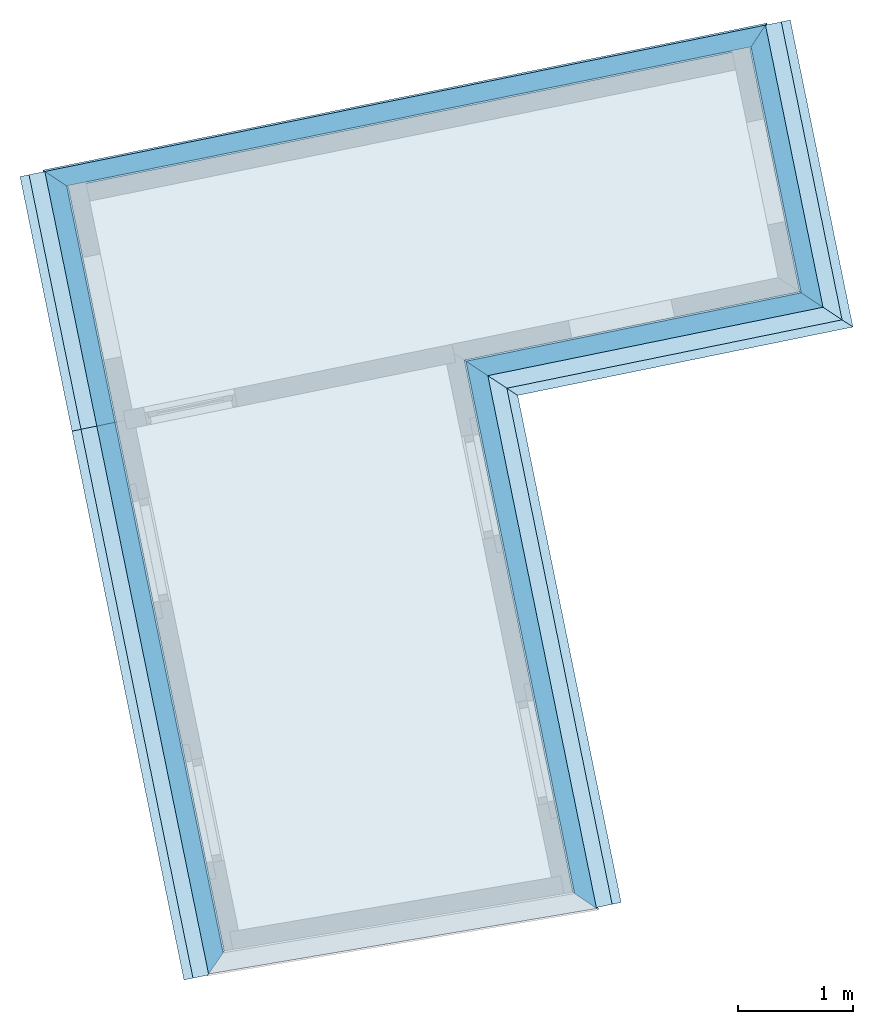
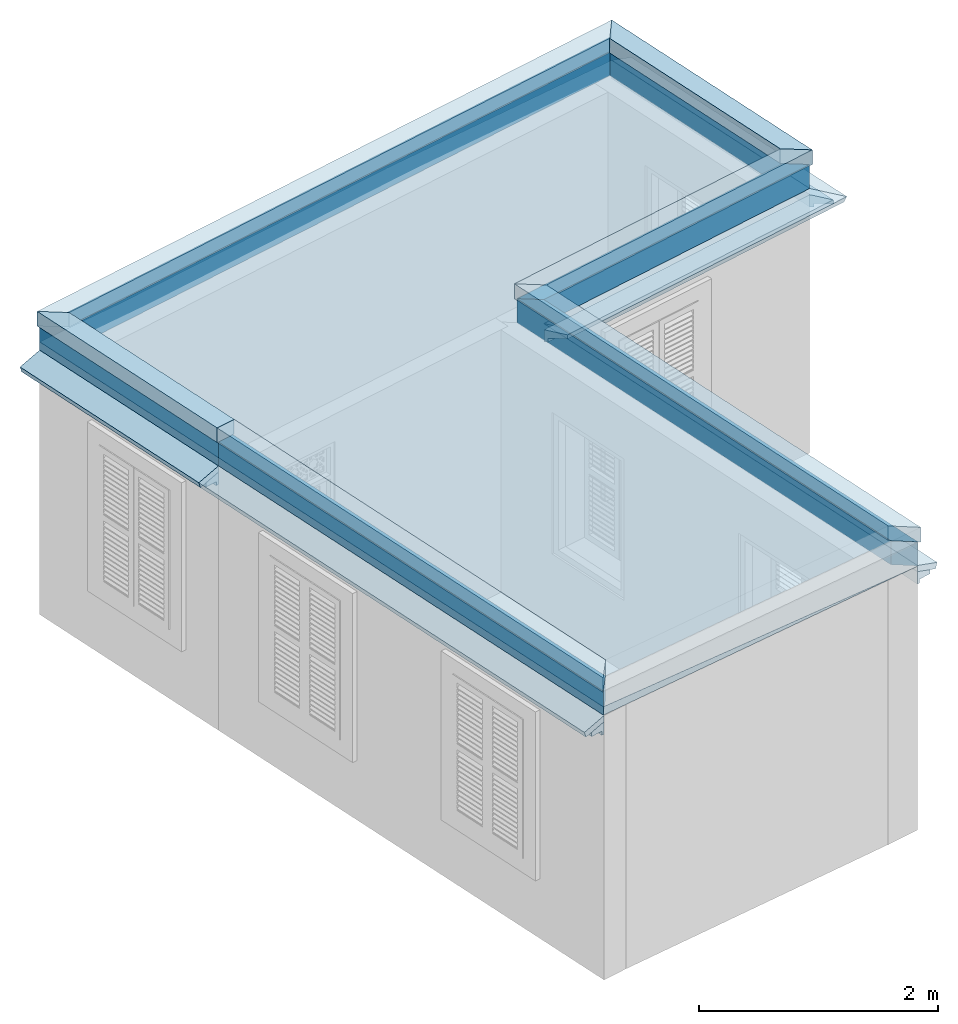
# One storey, part 5 of 5: 23 roofs.
"""IFC4 building model written with IfcOpenShell, lengths in metres."""

from ifc_helpers import new_model, si_unit, frame, origin, origin_with_axes, place, context, subcontext, project, spatial, polyline, outline, extrude, boolean, clip, halfspace, faceted_brep, material_profile, profile_set, profile_usage, type_object, element, save


model = new_model("IFC4")

# Units and contexts
model_context = context("Model", 3, world=origin_with_axes())
body_context = subcontext(model_context, "Body", "Model", "MODEL_VIEW")
ifc_project = project(units=[si_unit("PLANEANGLEUNIT", "RADIAN"), si_unit("MASSUNIT", "GRAM", prefix="KILO"), si_unit("FORCEUNIT", "NEWTON", prefix="KILO"), si_unit("LENGTHUNIT", "METRE"), si_unit("AREAUNIT", "SQUARE_METRE"), si_unit("VOLUMEUNIT", "CUBIC_METRE")], contexts=[model_context, model_context])

# Site, building, storey
site_placement = place(None, origin_with_axes())
site = spatial("IfcSite", under=ifc_project, at=site_placement, Name="Site plot-7", CompositionType="ELEMENT")
building_placement = place(None, origin_with_axes())
building = spatial("IfcBuilding", under=site, at=building_placement, Name="Building plot-7", CompositionType="ELEMENT")
storey_placement = place(None, frame((0.0, 0.0, 5.7), z_axis=(0.0, 0.0, 1.0), x_axis=(1.0, 0.0, 0.0)))
storey = spatial("IfcBuildingStorey", under=building, at=storey_placement, Name="plot-7 2", CompositionType="ELEMENT", Elevation=5.7)

# Roofs
ifc_material_profile_1 = material_profile(None, outline(polyline([(0.25, 0.0), (0.25, 0.245), (0.09, 0.245), (0.09, 0.0), (0.25, 0.0)])))
ifc_profile_set_1 = profile_set([ifc_material_profile_1])
ifc_profile_usage_1 = profile_usage(ifc_profile_set_1)
roof_type_1 = type_object("IfcRoofType", Name="roofline_0", PredefinedType="FREEFORM", material=ifc_profile_set_1)
roof_1_placement = place(storey_placement, frame((-5.20461338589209, 10.3847425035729, 2.7), z_axis=(-0.979807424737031, -0.199943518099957, 0.0), x_axis=(0.199943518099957, -0.979807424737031, 0.0)))
element("IfcRoof", 1, at=roof_1_placement, inside=storey, type_object=roof_type_1, material=ifc_profile_usage_1, Name="roofline_0", context=body_context, shape_type="Clipping", body=[
    clip(clip(extrude(outline(polyline([(0.25, 0.0), (0.25, 0.245), (0.09, 0.245), (0.09, 0.0), (0.25, 0.0)])), origin_with_axes(), (0.0, 0.0, 1.0), 4.97066143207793), halfspace(frame((0.0, 0.0, 3.97066143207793), z_axis=(-0.707106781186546, 0.0, -0.707106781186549), x_axis=(0.0, 1.0, 0.0)), True)), halfspace(frame((0.0, 0.0, 1.0), z_axis=(-0.707106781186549, 0.0, -0.707106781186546), x_axis=(0.0, 1.0, 0.0)), False)),
])
ifc_profile_usage_2 = profile_usage(ifc_profile_set_1)
roof_2_placement = place(storey_placement, frame((-6.78437805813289, 13.1248421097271, 2.7), z_axis=(0.199943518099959, -0.97980742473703, 0.0), x_axis=(0.97980742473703, 0.199943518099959, 0.0)))
element("IfcRoof", 2, at=roof_2_placement, inside=storey, type_object=roof_type_1, material=ifc_profile_usage_2, Name="roofline_0", context=body_context, shape_type="Clipping", body=[
    clip(clip(extrude(outline(polyline([(0.25, 0.0), (0.25, 0.245), (0.09, 0.245), (0.09, 0.0), (0.25, 0.0)])), origin_with_axes(), (0.0, 0.0, 1.0), 4.00063364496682), halfspace(frame((0.0, 0.0, 3.00063364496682), z_axis=(0.707106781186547, 0.0, -0.707106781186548), x_axis=(0.0, 1.0, 0.0)), True)), halfspace(frame((0.0, 0.0, 1.0), z_axis=(-0.706781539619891, 0.0, -0.707431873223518), x_axis=(0.0, 1.0, 0.0)), False)),
])
ifc_profile_usage_3 = profile_usage(ifc_profile_set_1)
roof_3_placement = place(storey_placement, frame((-13.3315997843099, 10.7746431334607, 2.7), z_axis=(0.979990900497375, 0.199042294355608, 0.0), x_axis=(-0.199042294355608, 0.979990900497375, 0.0)))
element("IfcRoof", 3, at=roof_3_placement, inside=storey, type_object=roof_type_1, material=ifc_profile_usage_3, Name="roofline_0", context=body_context, shape_type="Clipping", body=[
    clip(clip(extrude(outline(polyline([(0.25, 0.0), (0.25, 0.245), (0.09, 0.245), (0.09, 0.0), (0.25, 0.0)])), origin_with_axes(), (0.0, 0.0, 1.0), 7.88492642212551), halfspace(frame((0.0, 0.0, 6.88492642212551), z_axis=(0.70678153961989, 0.0, -0.707431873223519), x_axis=(0.0, 1.0, 0.0)), True)), halfspace(frame((0.0, 0.0, 1.0), z_axis=(-0.707431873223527, 0.0, -0.706781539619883), x_axis=(0.0, 1.0, 0.0)), False)),
])
ifc_profile_usage_4 = profile_usage(ifc_profile_set_1)
roof_4_placement = place(storey_placement, frame((-11.7505694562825, 8.028339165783, 2.7), z_axis=(-0.199943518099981, 0.979807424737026, 0.0), x_axis=(-0.979807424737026, -0.199943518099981, 0.0)))
element("IfcRoof", 4, at=roof_4_placement, inside=storey, type_object=roof_type_1, material=ifc_profile_usage_4, Name="roofline_0", context=body_context, shape_type="Clipping", body=[
    clip(clip(extrude(outline(polyline([(0.25, 0.0), (0.25, 0.245), (0.09, 0.245), (0.09, 0.0), (0.25, 0.0)])), origin_with_axes(), (0.0, 0.0, 1.0), 4.00604607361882), halfspace(frame((0.0, 0.0, 3.00604607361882), z_axis=(0.707431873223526, 0.0, -0.706781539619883), x_axis=(0.0, 1.0, 0.0)), True)), halfspace(frame((0.0, 0.0, 1.0), z_axis=(8.26946079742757e-16, 0.0, -1.0), x_axis=(0.0, 1.0, 0.0)), False)),
])
ifc_profile_usage_5 = profile_usage(ifc_profile_set_1)
roof_5_placement = place(storey_placement, frame((-10.8280796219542, 3.50775056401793, 2.7), z_axis=(-0.199943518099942, 0.979807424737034, 0.0), x_axis=(-0.979807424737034, -0.199943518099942, 0.0)))
element("IfcRoof", 5, at=roof_5_placement, inside=storey, type_object=roof_type_1, material=ifc_profile_usage_5, Name="roofline_0", context=body_context, shape_type="Clipping", body=[
    clip(clip(extrude(outline(polyline([(0.25, 0.0), (0.25, 0.245), (0.09, 0.245), (0.09, 0.0), (0.25, 0.0)])), origin_with_axes(), (0.0, 0.0, 1.0), 6.61375213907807), halfspace(frame((0.0, 0.0, 5.61375213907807), z_axis=(-3.86969935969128e-14, 0.0, -1.0), x_axis=(0.0, 1.0, 0.0)), True)), halfspace(frame((0.0, 0.0, 1.0), z_axis=(-0.694901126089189, 0.0, -0.719105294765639), x_axis=(0.0, 1.0, 0.0)), False)),
])
ifc_profile_usage_6 = profile_usage(ifc_profile_set_1)
roof_6_placement = place(storey_placement, frame((-9.29504045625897, 10.5706419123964, 2.7), z_axis=(0.199943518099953, -0.979807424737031, 0.0), x_axis=(0.979807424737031, 0.199943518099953, 0.0)))
element("IfcRoof", 6, at=roof_6_placement, inside=storey, type_object=roof_type_1, material=ifc_profile_usage_6, Name="roofline_0", context=body_context, shape_type="Clipping", body=[
    clip(clip(extrude(outline(polyline([(0.25, 0.0), (0.25, 0.245), (0.09, 0.245), (0.09, 0.0), (0.25, 0.0)])), origin_with_axes(), (0.0, 0.0, 1.0), 6.71355080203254), halfspace(frame((0.0, 0.0, 5.71355080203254), z_axis=(0.719105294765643, 0.0, -0.694901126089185), x_axis=(0.0, 1.0, 0.0)), True)), halfspace(frame((0.0, 0.0, 1.0), z_axis=(0.707106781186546, 0.0, -0.707106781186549), x_axis=(0.0, 1.0, 0.0)), False)),
])
ifc_material_profile_2 = material_profile(None, outline(polyline([(0.265, 0.245), (0.265, 0.395), (0.075, 0.395), (0.075, 0.245), (0.265, 0.245)])))
ifc_profile_set_2 = profile_set([ifc_material_profile_2])
ifc_profile_usage_7 = profile_usage(ifc_profile_set_2)
roof_type_2 = type_object("IfcRoofType", Name="roofline_1", PredefinedType="FREEFORM", material=ifc_profile_set_2)
roof_7_placement = place(storey_placement, frame((-5.20461338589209, 10.3847425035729, 2.7), z_axis=(-0.979807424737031, -0.199943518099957, 0.0), x_axis=(0.199943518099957, -0.979807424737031, 0.0)))
element("IfcRoof", 7, at=roof_7_placement, inside=storey, type_object=roof_type_2, material=ifc_profile_usage_7, Name="roofline_1", context=body_context, shape_type="Clipping", body=[
    clip(clip(extrude(outline(polyline([(0.265, 0.245), (0.265, 0.395), (0.075, 0.395), (0.075, 0.245), (0.265, 0.245)])), origin_with_axes(), (0.0, 0.0, 1.0), 4.97066143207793), halfspace(frame((0.0, 0.0, 3.97066143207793), z_axis=(-0.707106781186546, 0.0, -0.707106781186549), x_axis=(0.0, 1.0, 0.0)), True)), halfspace(frame((0.0, 0.0, 1.0), z_axis=(-0.707106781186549, 0.0, -0.707106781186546), x_axis=(0.0, 1.0, 0.0)), False)),
])
ifc_profile_usage_8 = profile_usage(ifc_profile_set_2)
roof_8_placement = place(storey_placement, frame((-6.78437805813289, 13.1248421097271, 2.7), z_axis=(0.199943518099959, -0.97980742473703, 0.0), x_axis=(0.97980742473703, 0.199943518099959, 0.0)))
element("IfcRoof", 8, at=roof_8_placement, inside=storey, type_object=roof_type_2, material=ifc_profile_usage_8, Name="roofline_1", context=body_context, shape_type="Clipping", body=[
    clip(clip(extrude(outline(polyline([(0.265, 0.245), (0.265, 0.395), (0.075, 0.395), (0.075, 0.245), (0.265, 0.245)])), origin_with_axes(), (0.0, 0.0, 1.0), 4.00063364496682), halfspace(frame((0.0, 0.0, 3.00063364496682), z_axis=(0.707106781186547, 0.0, -0.707106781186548), x_axis=(0.0, 1.0, 0.0)), True)), halfspace(frame((0.0, 0.0, 1.0), z_axis=(-0.706781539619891, 0.0, -0.707431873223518), x_axis=(0.0, 1.0, 0.0)), False)),
])
ifc_profile_usage_9 = profile_usage(ifc_profile_set_2)
roof_9_placement = place(storey_placement, frame((-13.3315997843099, 10.7746431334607, 2.7), z_axis=(0.979990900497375, 0.199042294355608, 0.0), x_axis=(-0.199042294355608, 0.979990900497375, 0.0)))
element("IfcRoof", 9, at=roof_9_placement, inside=storey, type_object=roof_type_2, material=ifc_profile_usage_9, Name="roofline_1", context=body_context, shape_type="Clipping", body=[
    clip(clip(extrude(outline(polyline([(0.265, 0.245), (0.265, 0.395), (0.075, 0.395), (0.075, 0.245), (0.265, 0.245)])), origin_with_axes(), (0.0, 0.0, 1.0), 7.88492642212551), halfspace(frame((0.0, 0.0, 6.88492642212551), z_axis=(0.70678153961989, 0.0, -0.707431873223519), x_axis=(0.0, 1.0, 0.0)), True)), halfspace(frame((0.0, 0.0, 1.0), z_axis=(-0.707431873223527, 0.0, -0.706781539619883), x_axis=(0.0, 1.0, 0.0)), False)),
])
ifc_profile_usage_10 = profile_usage(ifc_profile_set_2)
roof_10_placement = place(storey_placement, frame((-11.7505694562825, 8.028339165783, 2.7), z_axis=(-0.199943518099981, 0.979807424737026, 0.0), x_axis=(-0.979807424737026, -0.199943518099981, 0.0)))
element("IfcRoof", 10, at=roof_10_placement, inside=storey, type_object=roof_type_2, material=ifc_profile_usage_10, Name="roofline_1", context=body_context, shape_type="Clipping", body=[
    clip(clip(extrude(outline(polyline([(0.265, 0.245), (0.265, 0.395), (0.075, 0.395), (0.075, 0.245), (0.265, 0.245)])), origin_with_axes(), (0.0, 0.0, 1.0), 4.00604607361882), halfspace(frame((0.0, 0.0, 3.00604607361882), z_axis=(0.707431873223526, 0.0, -0.706781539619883), x_axis=(0.0, 1.0, 0.0)), True)), halfspace(frame((0.0, 0.0, 1.0), z_axis=(8.26946079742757e-16, 0.0, -1.0), x_axis=(0.0, 1.0, 0.0)), False)),
])
ifc_profile_usage_11 = profile_usage(ifc_profile_set_2)
roof_11_placement = place(storey_placement, frame((-10.8280796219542, 3.50775056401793, 2.7), z_axis=(-0.199943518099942, 0.979807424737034, 0.0), x_axis=(-0.979807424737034, -0.199943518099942, 0.0)))
element("IfcRoof", 11, at=roof_11_placement, inside=storey, type_object=roof_type_2, material=ifc_profile_usage_11, Name="roofline_1", context=body_context, shape_type="Clipping", body=[
    clip(clip(extrude(outline(polyline([(0.265, 0.245), (0.265, 0.395), (0.075, 0.395), (0.075, 0.245), (0.265, 0.245)])), origin_with_axes(), (0.0, 0.0, 1.0), 6.61375213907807), halfspace(frame((0.0, 0.0, 5.61375213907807), z_axis=(-3.86969935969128e-14, 0.0, -1.0), x_axis=(0.0, 1.0, 0.0)), True)), halfspace(frame((0.0, 0.0, 1.0), z_axis=(-0.694901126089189, 0.0, -0.719105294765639), x_axis=(0.0, 1.0, 0.0)), False)),
])
ifc_profile_usage_12 = profile_usage(ifc_profile_set_2)
roof_12_placement = place(storey_placement, frame((-9.29504045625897, 10.5706419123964, 2.7), z_axis=(0.199943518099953, -0.979807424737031, 0.0), x_axis=(0.979807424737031, 0.199943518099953, 0.0)))
element("IfcRoof", 12, at=roof_12_placement, inside=storey, type_object=roof_type_2, material=ifc_profile_usage_12, Name="roofline_1", context=body_context, shape_type="Clipping", body=[
    clip(clip(extrude(outline(polyline([(0.265, 0.245), (0.265, 0.395), (0.075, 0.395), (0.075, 0.245), (0.265, 0.245)])), origin_with_axes(), (0.0, 0.0, 1.0), 6.71355080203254), halfspace(frame((0.0, 0.0, 5.71355080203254), z_axis=(0.719105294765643, 0.0, -0.694901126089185), x_axis=(0.0, 1.0, 0.0)), True)), halfspace(frame((0.0, 0.0, 1.0), z_axis=(0.707106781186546, 0.0, -0.707106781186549), x_axis=(0.0, 1.0, 0.0)), False)),
])
ifc_material_profile_3 = material_profile(None, outline(polyline([(0.25, -0.19), (0.275, -0.19), (0.275, -0.15), (0.39, -0.15), (0.39, -0.107509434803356), (0.25, -0.0629639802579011), (0.25, -0.19)])))
ifc_profile_set_3 = profile_set([ifc_material_profile_3])
ifc_profile_usage_13 = profile_usage(ifc_profile_set_3)
roof_type_3 = type_object("IfcRoofType", Name="eaves_0", PredefinedType="FREEFORM", material=ifc_profile_set_3)
roof_13_placement = place(storey_placement, frame((-11.7505694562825, 8.028339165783, 2.7), z_axis=(-0.19994351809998, 0.979807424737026, 0.0), x_axis=(-0.979807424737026, -0.19994351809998, 0.0)))
element("IfcRoof", 13, at=roof_13_placement, inside=storey, type_object=roof_type_3, material=ifc_profile_usage_13, Name="eaves_0", context=body_context, shape_type="Clipping", body=[
    clip(clip(extrude(outline(polyline([(0.25, -0.19), (0.275, -0.19), (0.275, -0.15), (0.39, -0.15), (0.39, -0.107509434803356), (0.25, -0.0629639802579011), (0.25, -0.19)])), origin_with_axes(), (0.0, 0.0, 1.0), 4.25604607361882), halfspace(frame((0.0, 0.0, 3.25604607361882), z_axis=(6.04901474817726e-16, 0.0, -1.0), x_axis=(0.0, 1.0, 0.0)), True)), halfspace(frame((0.0, 0.0, 1.0), z_axis=(6.04901474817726e-16, 0.0, -1.0), x_axis=(0.0, 1.0, 0.0)), False)),
])
ifc_profile_usage_14 = profile_usage(ifc_profile_set_3)
roof_14_placement = place(storey_placement, frame((-10.7780937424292, 3.26279870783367, 2.7), z_axis=(-0.199943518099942, 0.979807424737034, 0.0), x_axis=(-0.979807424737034, -0.199943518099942, 0.0)))
element("IfcRoof", 14, at=roof_14_placement, inside=storey, type_object=roof_type_3, material=ifc_profile_usage_14, Name="eaves_0", context=body_context, shape_type="Clipping", body=[
    clip(clip(extrude(outline(polyline([(0.25, -0.19), (0.275, -0.19), (0.275, -0.15), (0.39, -0.15), (0.39, -0.107509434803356), (0.25, -0.0629639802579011), (0.25, -0.19)])), origin_with_axes(), (0.0, 0.0, 1.0), 6.86375213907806), halfspace(frame((0.0, 0.0, 5.86375213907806), z_axis=(-3.86969935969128e-14, 0.0, -1.0), x_axis=(0.0, 1.0, 0.0)), True)), halfspace(frame((0.0, 0.0, 1.0), z_axis=(3.82856869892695e-16, 0.0, -1.0), x_axis=(0.0, 1.0, 0.0)), False)),
])
ifc_material_profile_4 = material_profile(None, outline(polyline([(0.25, -0.0629639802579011), (0.451807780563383, -0.127175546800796), (0.47, -0.07), (0.25, 0.0), (0.25, -0.0629639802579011)])))
ifc_profile_set_4 = profile_set([ifc_material_profile_4])
ifc_profile_usage_15 = profile_usage(ifc_profile_set_4)
roof_type_4 = type_object("IfcRoofType", Name="eaves_1", PredefinedType="FREEFORM", material=ifc_profile_set_4)
roof_15_placement = place(storey_placement, frame((-11.7505694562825, 8.028339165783, 2.7), z_axis=(-0.19994351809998, 0.979807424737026, 0.0), x_axis=(-0.979807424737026, -0.19994351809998, 0.0)))
element("IfcRoof", 15, at=roof_15_placement, inside=storey, type_object=roof_type_4, material=ifc_profile_usage_15, Name="eaves_1", context=body_context, shape_type="Clipping", body=[
    clip(clip(extrude(outline(polyline([(0.25, -0.0629639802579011), (0.451807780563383, -0.127175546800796), (0.47, -0.07), (0.25, 0.0), (0.25, -0.0629639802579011)])), origin_with_axes(), (0.0, 0.0, 1.0), 4.25604607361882), halfspace(frame((0.0, 0.0, 3.25604607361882), z_axis=(6.04901474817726e-16, 0.0, -1.0), x_axis=(0.0, 1.0, 0.0)), True)), halfspace(frame((0.0, 0.0, 1.0), z_axis=(6.04901474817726e-16, 0.0, -1.0), x_axis=(0.0, 1.0, 0.0)), False)),
])
ifc_profile_usage_16 = profile_usage(ifc_profile_set_4)
roof_16_placement = place(storey_placement, frame((-10.7780937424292, 3.26279870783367, 2.7), z_axis=(-0.199943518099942, 0.979807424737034, 0.0), x_axis=(-0.979807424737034, -0.199943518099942, 0.0)))
element("IfcRoof", 16, at=roof_16_placement, inside=storey, type_object=roof_type_4, material=ifc_profile_usage_16, Name="eaves_1", context=body_context, shape_type="Clipping", body=[
    clip(clip(extrude(outline(polyline([(0.25, -0.0629639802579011), (0.451807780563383, -0.127175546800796), (0.47, -0.07), (0.25, 0.0), (0.25, -0.0629639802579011)])), origin_with_axes(), (0.0, 0.0, 1.0), 6.86375213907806), halfspace(frame((0.0, 0.0, 5.86375213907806), z_axis=(-3.86969935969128e-14, 0.0, -1.0), x_axis=(0.0, 1.0, 0.0)), True)), halfspace(frame((0.0, 0.0, 1.0), z_axis=(3.82856869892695e-16, 0.0, -1.0), x_axis=(0.0, 1.0, 0.0)), False)),
])
ifc_material_profile_5 = material_profile(None, outline(polyline([(0.25, -0.19), (0.275, -0.19), (0.275, -0.15), (0.39, -0.15), (0.39, -0.107509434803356), (0.25, -0.0629639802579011), (0.25, -0.19)])))
ifc_profile_set_5 = profile_set([ifc_material_profile_5])
ifc_profile_usage_17 = profile_usage(ifc_profile_set_5)
roof_type_5 = type_object("IfcRoofType", Name="eaves_0", PredefinedType="FREEFORM", material=ifc_profile_set_5)
roof_17_placement = place(storey_placement, frame((-9.29504045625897, 10.5706419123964, 2.7), z_axis=(0.199943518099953, -0.979807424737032, 0.0), x_axis=(0.979807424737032, 0.199943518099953, 0.0)))
element("IfcRoof", 17, at=roof_17_placement, inside=storey, type_object=roof_type_5, material=ifc_profile_usage_17, Name="eaves_0", context=body_context, shape_type="Clipping", body=[
    clip(clip(extrude(outline(polyline([(0.25, -0.19), (0.275, -0.19), (0.275, -0.15), (0.39, -0.15), (0.39, -0.107509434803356), (0.25, -0.0629639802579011), (0.25, -0.19)])), origin_with_axes(), (0.0, 0.0, 1.0), 6.96355080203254), halfspace(frame((0.0, 0.0, 5.96355080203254), z_axis=(-6.12323399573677e-17, 0.0, -1.0), x_axis=(0.0, 1.0, 0.0)), True)), halfspace(frame((0.0, 0.0, 1.0), z_axis=(0.707106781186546, 0.0, -0.707106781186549), x_axis=(0.0, 1.0, 0.0)), False)),
])
ifc_profile_usage_18 = profile_usage(ifc_profile_set_5)
roof_18_placement = place(storey_placement, frame((-5.20461338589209, 10.3847425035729, 2.7), z_axis=(-0.979807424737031, -0.199943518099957, 0.0), x_axis=(0.199943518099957, -0.979807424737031, 0.0)))
element("IfcRoof", 18, at=roof_18_placement, inside=storey, type_object=roof_type_5, material=ifc_profile_usage_18, Name="eaves_0", context=body_context, shape_type="Clipping", body=[
    clip(clip(extrude(outline(polyline([(0.25, -0.19), (0.275, -0.19), (0.275, -0.15), (0.39, -0.15), (0.39, -0.107509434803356), (0.25, -0.0629639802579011), (0.25, -0.19)])), origin_with_axes(), (0.0, 0.0, 1.0), 4.97066143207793), halfspace(frame((0.0, 0.0, 3.97066143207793), z_axis=(-0.707106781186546, 0.0, -0.707106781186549), x_axis=(0.0, 1.0, 0.0)), True)), halfspace(frame((0.0, 0.0, 1.0), z_axis=(-0.707106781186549, 0.0, -0.707106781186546), x_axis=(0.0, 1.0, 0.0)), False)),
])
ifc_profile_usage_19 = profile_usage(ifc_profile_set_5)
roof_19_placement = place(storey_placement, frame((-6.83436393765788, 13.3697939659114, 2.7), z_axis=(0.199943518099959, -0.97980742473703, 0.0), x_axis=(0.97980742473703, 0.199943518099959, 0.0)))
element("IfcRoof", 19, at=roof_19_placement, inside=storey, type_object=roof_type_5, material=ifc_profile_usage_19, Name="eaves_0", context=body_context, shape_type="Clipping", body=[
    clip(clip(extrude(outline(polyline([(0.25, -0.19), (0.275, -0.19), (0.275, -0.15), (0.39, -0.15), (0.39, -0.107509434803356), (0.25, -0.0629639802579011), (0.25, -0.19)])), origin_with_axes(), (0.0, 0.0, 1.0), 4.25063364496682), halfspace(frame((0.0, 0.0, 3.25063364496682), z_axis=(0.707106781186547, 0.0, -0.707106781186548), x_axis=(0.0, 1.0, 0.0)), True)), halfspace(frame((0.0, 0.0, 1.0), z_axis=(6.04901474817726e-16, 0.0, -1.0), x_axis=(0.0, 1.0, 0.0)), False)),
])
ifc_material_profile_6 = material_profile(None, outline(polyline([(0.25, -0.0629639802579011), (0.451807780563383, -0.127175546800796), (0.47, -0.07), (0.25, 0.0), (0.25, -0.0629639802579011)])))
ifc_profile_set_6 = profile_set([ifc_material_profile_6])
ifc_profile_usage_20 = profile_usage(ifc_profile_set_6)
roof_type_6 = type_object("IfcRoofType", Name="eaves_1", PredefinedType="FREEFORM", material=ifc_profile_set_6)
roof_20_placement = place(storey_placement, frame((-9.29504045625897, 10.5706419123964, 2.7), z_axis=(0.199943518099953, -0.979807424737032, 0.0), x_axis=(0.979807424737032, 0.199943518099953, 0.0)))
element("IfcRoof", 20, at=roof_20_placement, inside=storey, type_object=roof_type_6, material=ifc_profile_usage_20, Name="eaves_1", context=body_context, shape_type="Clipping", body=[
    clip(clip(extrude(outline(polyline([(0.25, -0.0629639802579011), (0.451807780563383, -0.127175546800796), (0.47, -0.07), (0.25, 0.0), (0.25, -0.0629639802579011)])), origin_with_axes(), (0.0, 0.0, 1.0), 6.96355080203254), halfspace(frame((0.0, 0.0, 5.96355080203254), z_axis=(-6.12323399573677e-17, 0.0, -1.0), x_axis=(0.0, 1.0, 0.0)), True)), halfspace(frame((0.0, 0.0, 1.0), z_axis=(0.707106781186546, 0.0, -0.707106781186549), x_axis=(0.0, 1.0, 0.0)), False)),
])
ifc_profile_usage_21 = profile_usage(ifc_profile_set_6)
roof_21_placement = place(storey_placement, frame((-5.20461338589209, 10.3847425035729, 2.7), z_axis=(-0.979807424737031, -0.199943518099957, 0.0), x_axis=(0.199943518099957, -0.979807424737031, 0.0)))
element("IfcRoof", 21, at=roof_21_placement, inside=storey, type_object=roof_type_6, material=ifc_profile_usage_21, Name="eaves_1", context=body_context, shape_type="Clipping", body=[
    clip(clip(extrude(outline(polyline([(0.25, -0.0629639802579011), (0.451807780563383, -0.127175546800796), (0.47, -0.07), (0.25, 0.0), (0.25, -0.0629639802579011)])), origin_with_axes(), (0.0, 0.0, 1.0), 4.97066143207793), halfspace(frame((0.0, 0.0, 3.97066143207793), z_axis=(-0.707106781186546, 0.0, -0.707106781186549), x_axis=(0.0, 1.0, 0.0)), True)), halfspace(frame((0.0, 0.0, 1.0), z_axis=(-0.707106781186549, 0.0, -0.707106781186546), x_axis=(0.0, 1.0, 0.0)), False)),
])
ifc_profile_usage_22 = profile_usage(ifc_profile_set_6)
roof_22_placement = place(storey_placement, frame((-6.83436393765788, 13.3697939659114, 2.7), z_axis=(0.199943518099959, -0.97980742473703, 0.0), x_axis=(0.97980742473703, 0.199943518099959, 0.0)))
element("IfcRoof", 22, at=roof_22_placement, inside=storey, type_object=roof_type_6, material=ifc_profile_usage_22, Name="eaves_1", context=body_context, shape_type="Clipping", body=[
    clip(clip(extrude(outline(polyline([(0.25, -0.0629639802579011), (0.451807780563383, -0.127175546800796), (0.47, -0.07), (0.25, 0.0), (0.25, -0.0629639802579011)])), origin_with_axes(), (0.0, 0.0, 1.0), 4.25063364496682), halfspace(frame((0.0, 0.0, 3.25063364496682), z_axis=(0.707106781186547, 0.0, -0.707106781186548), x_axis=(0.0, 1.0, 0.0)), True)), halfspace(frame((0.0, 0.0, 1.0), z_axis=(6.04901474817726e-16, 0.0, -1.0), x_axis=(0.0, 1.0, 0.0)), False)),
])
roof_23_placement = place(building_placement, origin())
element("IfcRoof", 23, at=roof_23_placement, inside=storey, Name="Roof", PredefinedType="FREEFORM", context=body_context, shape_type="CSG", body=[
    boolean("UNION", faceted_brep([(-7.855974, 4.768964, 8.4), (-9.300645, 11.84846, 8.4), (-12.646593, 11.168877, 8.485357), (-11.224672, 4.200865, 8.485357), (-11.224672, 4.200865, 8.4), (-12.646593, 11.168877, 8.4)], [[[0, 1, 2, 3]], [[4, 5, 1, 0]], [[3, 4, 0]], [[2, 1, 5]], [[2, 5, 4, 3]]]), faceted_brep([(-12.145479, 8.713209, 8.4), (-5.889483, 9.989833, 8.4), (-8.842052, 11.941603, 8.462568), (-12.646593, 11.168877, 8.462657), (-12.646593, 11.168877, 8.4), (-6.389423, 12.439747, 8.4)], [[[0, 1, 2, 3]], [[4, 5, 1, 0]], [[3, 4, 0]], [[2, 1, 5]], [[2, 5, 4, 3]]])),
])

save(model, "model.ifc")
